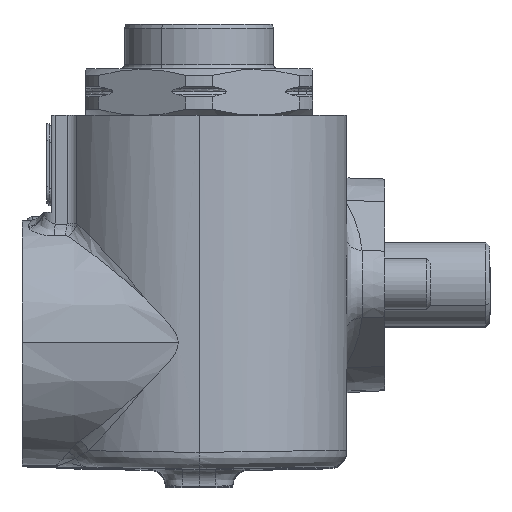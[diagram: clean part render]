
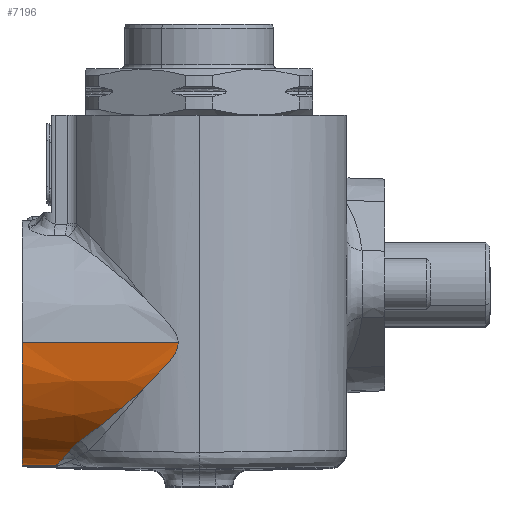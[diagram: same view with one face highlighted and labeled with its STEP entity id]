
A CAD part, top view. The second image highlights one B-rep face of the part: STEP entity #7196.
In plain terms, the highlighted conical face has half-angle 1 degrees and reference radius 14.5 mm.
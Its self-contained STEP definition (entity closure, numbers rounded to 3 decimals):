
#91 = CARTESIAN_POINT ( 'NONE',  ( -8.055, -18.576, 65.432 ) ) ;
#172 = B_SPLINE_CURVE_WITH_KNOTS ( 'NONE', 3,
 ( #13387, #24186, #10713, #24357, #34385, #91 ),
 .UNSPECIFIED., .F., .F.,
 ( 4, 2, 4 ),
 ( 0., 0.002, 0.003 ),
 .UNSPECIFIED. ) ;
#473 = VERTEX_POINT ( 'NONE', #4085 ) ;
#631 = ORIENTED_EDGE ( 'NONE', *, *, #19582, .T. ) ;
#886 = AXIS2_PLACEMENT_3D ( 'NONE', #6822, #24019, #5221 ) ;
#1783 = EDGE_CURVE ( 'NONE', #8196, #7696, #25038, .T. ) ;
#2089 = CARTESIAN_POINT ( 'NONE',  ( -10.678, -21.297, 59.395 ) ) ;
#2251 = CARTESIAN_POINT ( 'NONE',  ( -9.704, -20.245, 62.651 ) ) ;
#2408 = ORIENTED_EDGE ( 'NONE', *, *, #4378, .F. ) ;
#2647 = VERTEX_POINT ( 'NONE', #6736 ) ;
#2922 = B_SPLINE_CURVE_WITH_KNOTS ( 'NONE', 3,
 ( #23568, #28841, #12591, #17895, #23381, #28682, #15251, #18607, #7587, #32019, #4619, #4960, #9896, #31677 ),
 .UNSPECIFIED., .F., .F.,
 ( 4, 2, 2, 2, 2, 2, 4 ),
 ( 0.023, 0.024, 0.025, 0.026, 0.026, 0.028, 0.03 ),
 .UNSPECIFIED. ) ;
#4085 = CARTESIAN_POINT ( 'NONE',  ( -9.52, -19.989, 63.157 ) ) ;
#4378 = EDGE_CURVE ( 'NONE', #8196, #20424, #28507, .T. ) ;
#4572 = EDGE_CURVE ( 'NONE', #32027, #21423, #8028, .T. ) ;
#4619 = CARTESIAN_POINT ( 'NONE',  ( 1.093, -10.752, 70.803 ) ) ;
#4960 = CARTESIAN_POINT ( 'NONE',  ( 0.313, -11.549, 70.555 ) ) ;
#5221 = DIRECTION ( 'NONE',  ( 0., 0., 1. ) ) ;
#5982 = CARTESIAN_POINT ( 'NONE',  ( -8.055, -18.576, 65.432 ) ) ;
#6017 = CARTESIAN_POINT ( 'NONE',  ( -15., -21.5, 56.5 ) ) ;
#6736 = CARTESIAN_POINT ( 'NONE',  ( -11.198, -21.566, 56.5 ) ) ;
#6822 = CARTESIAN_POINT ( 'NONE',  ( -15., -7., 56.5 ) ) ;
#6839 = EDGE_CURVE ( 'NONE', #20424, #21423, #2922, .T. ) ;
#6990 = FACE_OUTER_BOUND ( 'NONE', #21589, .T. ) ;
#7196 = ADVANCED_FACE ( 'NONE', ( #6990 ), #16127, .T. ) ;
#7587 = CARTESIAN_POINT ( 'NONE',  ( 2.043, -9.715, 71.048 ) ) ;
#7696 = VERTEX_POINT ( 'NONE', #6017 ) ;
#8028 = B_SPLINE_CURVE_WITH_KNOTS ( 'NONE', 3,
 ( #33402, #20018, #20193, #17355, #28123, #14694, #30276, #8650, #24984, #25489 ),
 .UNSPECIFIED., .F., .F.,
 ( 4, 2, 2, 2, 4 ),
 ( 0., 0.003, 0.006, 0.008, 0.011 ),
 .UNSPECIFIED. ) ;
#8064 = CARTESIAN_POINT ( 'NONE',  ( -10.798, -21.398, 58.826 ) ) ;
#8196 = VERTEX_POINT ( 'NONE', #16960 ) ;
#8650 = CARTESIAN_POINT ( 'NONE',  ( -1.754, -13.532, 69.72 ) ) ;
#9469 = ORIENTED_EDGE ( 'NONE', *, *, #1783, .T. ) ;
#9896 = CARTESIAN_POINT ( 'NONE',  ( -0.08, -11.94, 70.415 ) ) ;
#10017 = CARTESIAN_POINT ( 'NONE',  ( -9.89, -20.47, 62.134 ) ) ;
#10080 = CARTESIAN_POINT ( 'NONE',  ( -15., -7., 71. ) ) ;
#10203 = CARTESIAN_POINT ( 'NONE',  ( -11.01, -21.534, 57.672 ) ) ;
#10713 = CARTESIAN_POINT ( 'NONE',  ( -9.159, -19.535, 64.002 ) ) ;
#11169 = ORIENTED_EDGE ( 'NONE', *, *, #31395, .T. ) ;
#11975 = CARTESIAN_POINT ( 'NONE',  ( 3.519, -7., 71.323 ) ) ;
#12591 = CARTESIAN_POINT ( 'NONE',  ( 3.448, -7.576, 71.313 ) ) ;
#13244 = CARTESIAN_POINT ( 'NONE',  ( -10.236, -20.861, 61.068 ) ) ;
#13387 = CARTESIAN_POINT ( 'NONE',  ( -9.52, -19.989, 63.157 ) ) ;
#14694 = CARTESIAN_POINT ( 'NONE',  ( -3.695, -15.195, 68.718 ) ) ;
#15251 = CARTESIAN_POINT ( 'NONE',  ( 2.586, -9.06, 71.165 ) ) ;
#15407 = AXIS2_PLACEMENT_3D ( 'NONE', #24304, #24477, #29418 ) ;
#16075 = CARTESIAN_POINT ( 'NONE',  ( -17., -21.465, 56.5 ) ) ;
#16127 = CONICAL_SURFACE ( 'NONE', #886, 14.5, 0.017 ) ;
#16684 = VECTOR ( 'NONE', #28844, 1000. ) ;
#16960 = CARTESIAN_POINT ( 'NONE',  ( -15., -7., 71. ) ) ;
#17355 = CARTESIAN_POINT ( 'NONE',  ( -5.619, -16.739, 67.483 ) ) ;
#17426 = VECTOR ( 'NONE', #18561, 1000. ) ;
#17895 = CARTESIAN_POINT ( 'NONE',  ( 3.225, -8.108, 71.279 ) ) ;
#18561 = DIRECTION ( 'NONE',  ( -1., 0.017, 0. ) ) ;
#18607 = CARTESIAN_POINT ( 'NONE',  ( 2.228, -9.501, 71.09 ) ) ;
#18908 = LINE ( 'NONE', #16075, #17426 ) ;
#19582 = EDGE_CURVE ( 'NONE', #473, #32027, #172, .T. ) ;
#20018 = CARTESIAN_POINT ( 'NONE',  ( -7.469, -18.149, 66.002 ) ) ;
#20193 = CARTESIAN_POINT ( 'NONE',  ( -6.863, -17.695, 66.523 ) ) ;
#20424 = VERTEX_POINT ( 'NONE', #11975 ) ;
#21423 = VERTEX_POINT ( 'NONE', #28858 ) ;
#21589 = EDGE_LOOP ( 'NONE', ( #2408, #9469, #31152, #11169, #631, #28386, #33940 ) ) ;
#23381 = CARTESIAN_POINT ( 'NONE',  ( 3.08, -8.355, 71.255 ) ) ;
#23568 = CARTESIAN_POINT ( 'NONE',  ( 3.519, -7., 71.323 ) ) ;
#23686 = CARTESIAN_POINT ( 'NONE',  ( -9.52, -19.989, 63.157 ) ) ;
#24019 = DIRECTION ( 'NONE',  ( 1., 0., 0. ) ) ;
#24186 = CARTESIAN_POINT ( 'NONE',  ( -9.36, -19.768, 63.595 ) ) ;
#24304 = CARTESIAN_POINT ( 'NONE',  ( -15., -7., 56.5 ) ) ;
#24357 = CARTESIAN_POINT ( 'NONE',  ( -8.672, -19.06, 64.76 ) ) ;
#24477 = DIRECTION ( 'NONE',  ( 1., 0., 0. ) ) ;
#24825 = EDGE_CURVE ( 'NONE', #2647, #7696, #18908, .T. ) ;
#24984 = CARTESIAN_POINT ( 'NONE',  ( -1.107, -12.947, 70.006 ) ) ;
#25038 = CIRCLE ( 'NONE', #15407, 14.5 ) ;
#25489 = CARTESIAN_POINT ( 'NONE',  ( -0.474, -12.326, 70.259 ) ) ;
#26836 = CARTESIAN_POINT ( 'NONE',  ( -11.103, -21.568, 57.088 ) ) ;
#28123 = CARTESIAN_POINT ( 'NONE',  ( -4.98, -16.236, 67.923 ) ) ;
#28361 = B_SPLINE_CURVE_WITH_KNOTS ( 'NONE', 3,
 ( #33562, #26836, #10203, #8064, #2089, #32312, #13244, #10017, #2251, #23686 ),
 .UNSPECIFIED., .F., .F.,
 ( 4, 2, 2, 2, 4 ),
 ( 0., 0.002, 0.004, 0.005, 0.007 ),
 .UNSPECIFIED. ) ;
#28386 = ORIENTED_EDGE ( 'NONE', *, *, #4572, .T. ) ;
#28507 = LINE ( 'NONE', #10080, #16684 ) ;
#28682 = CARTESIAN_POINT ( 'NONE',  ( 2.76, -8.831, 71.198 ) ) ;
#28841 = CARTESIAN_POINT ( 'NONE',  ( 3.519, -7.29, 71.323 ) ) ;
#28844 = DIRECTION ( 'NONE',  ( 1., 0., 0.017 ) ) ;
#28858 = CARTESIAN_POINT ( 'NONE',  ( -0.474, -12.326, 70.259 ) ) ;
#29418 = DIRECTION ( 'NONE',  ( 0., 0., -1. ) ) ;
#30276 = CARTESIAN_POINT ( 'NONE',  ( -3.048, -14.656, 69.076 ) ) ;
#31152 = ORIENTED_EDGE ( 'NONE', *, *, #24825, .F. ) ;
#31395 = EDGE_CURVE ( 'NONE', #2647, #473, #28361, .T. ) ;
#31677 = CARTESIAN_POINT ( 'NONE',  ( -0.474, -12.326, 70.259 ) ) ;
#32019 = CARTESIAN_POINT ( 'NONE',  ( 1.48, -10.346, 70.91 ) ) ;
#32027 = VERTEX_POINT ( 'NONE', #5982 ) ;
#32312 = CARTESIAN_POINT ( 'NONE',  ( -10.396, -21.028, 60.517 ) ) ;
#33402 = CARTESIAN_POINT ( 'NONE',  ( -8.055, -18.576, 65.432 ) ) ;
#33562 = CARTESIAN_POINT ( 'NONE',  ( -11.198, -21.566, 56.5 ) ) ;
#33940 = ORIENTED_EDGE ( 'NONE', *, *, #6839, .F. ) ;
#34385 = CARTESIAN_POINT ( 'NONE',  ( -8.383, -18.815, 65.113 ) ) ;
